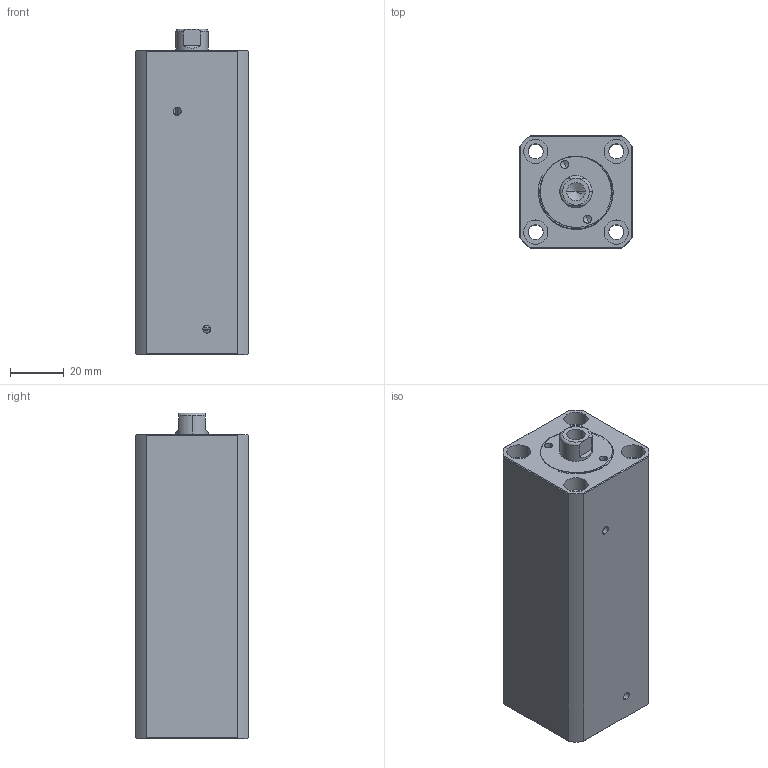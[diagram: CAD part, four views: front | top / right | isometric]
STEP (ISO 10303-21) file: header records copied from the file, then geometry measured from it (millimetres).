
FILE_DESCRIPTION (( 'STEP AP214' ), '1' );
FILE_NAME ('chtb-sdmb20x70_asm.STEP', '2018-05-18T08:29:35', ( 'Windows' ), ( 'Microsoft' ), 'SwSTEP 2.0', 'SolidWorks 2015', '' );
FILE_SCHEMA (( 'AUTOMOTIVE_DESIGN' ));
Length unit declared in the file: millimetre
Products named in the file (4): CHTB-SDMB20X70NBT; chtb-sdmb20x70_asm; QG_3; CHTB-SDMB20X70NHSG
Assembly tree (3 placements, depth 2):
  chtb-sdmb20x70_asm
    CHTB-SDMB20X70NBT
    CHTB-SDMB20X70NHSG
    QG_3
Bounding box: 42 x 42 x 121 mm (x, y, z)
Volume: 167131.5 mm3; surface area: 47952.1 mm2
Topology: 3 solids, 3 shells, 201 faces, 535 edges, 354 vertices
Faces by surface type: cylinder 106, plane 43, torus 25, bspline 21, cone 6
Entity records: 11558 total; most frequent: CARTESIAN_POINT 6663, ORIENTED_EDGE 1058, DIRECTION 922, EDGE_CURVE 529, AXIS2_PLACEMENT_3D 388, VERTEX_POINT 354, EDGE_LOOP 239, CIRCLE 202
